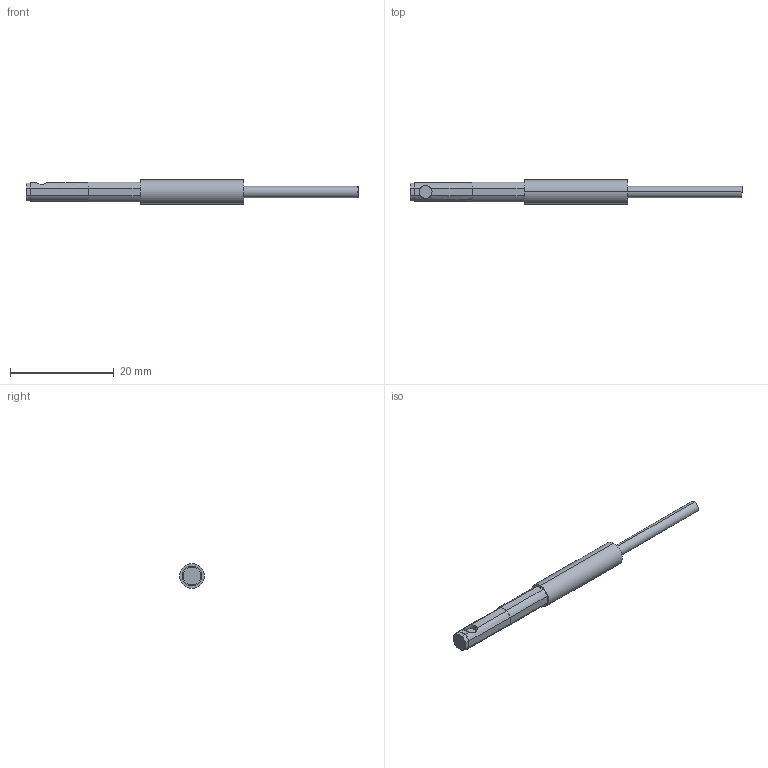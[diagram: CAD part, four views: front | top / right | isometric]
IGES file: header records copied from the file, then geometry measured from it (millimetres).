
Start section: SolidWorks IGES FILE using analytic representation for surfaces
Global section: file name: \\intra-srv04\開発データ\CAD_Data\CAD委員会\3D電子ｶﾀﾛｸﾞ\製品カタログ（新）\0_IGES\FT-WKV8.IGS,41HSolidWorks 2004; native system: by SolidWorks Corporation; preprocessor: Version 5.3; author: mf1158; date: 050908.131505; units: millimetre
Bounding box: 64 x 4.7 x 4.7 mm (x, y, z)
Volume: 673.4 mm3; surface area: 753.7 mm2
Topology: 1 solids, 1 shells, 38 faces, 96 edges, 64 vertices
Faces by surface type: plane 20, revolution 18
